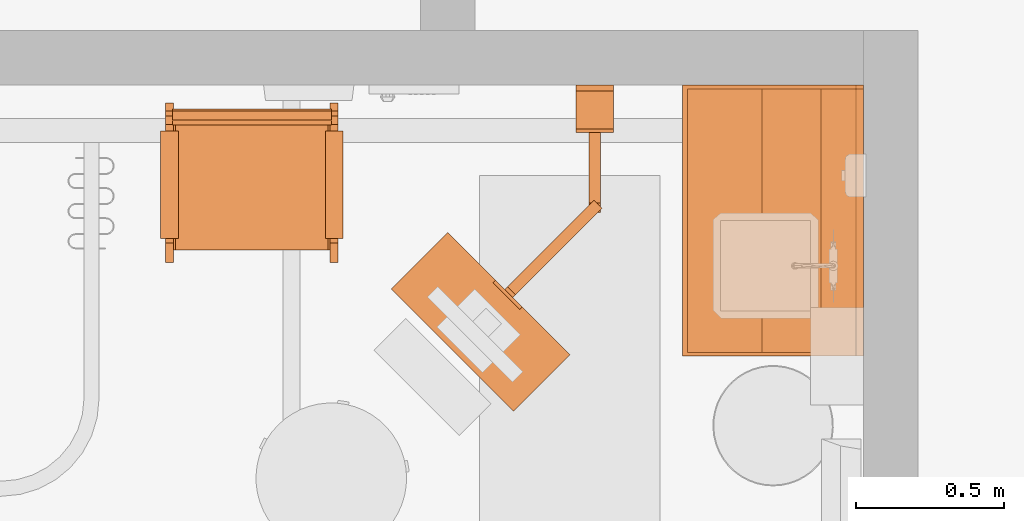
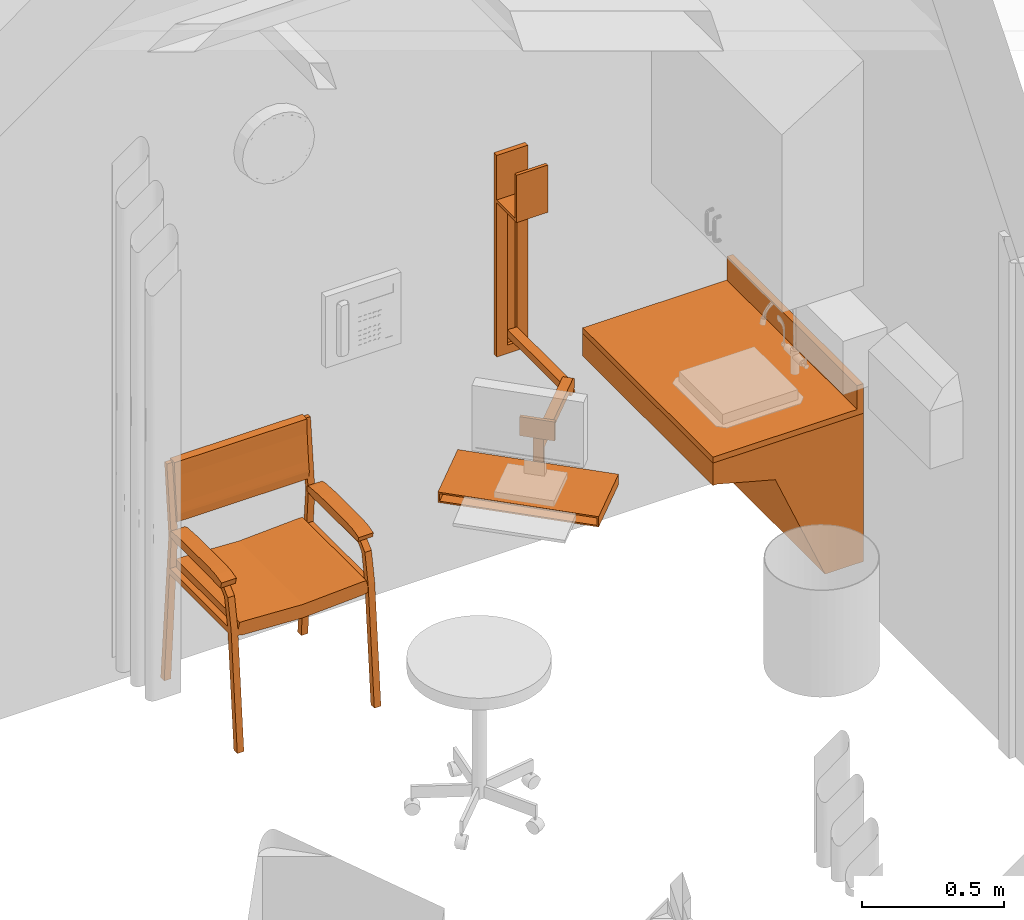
# One storey, part 29 of 142: 4 proxies.
"""IFC2X3 building model written with IfcOpenShell, lengths in feet."""

from ifc_helpers import new_model, entity, si_unit, converted_unit, derived_unit, direction, frame, frame_2d, origin, origin_2d_with_axis, place, context, subcontext, project, spatial, polyline, circle_curve, parameter, trimmed, segment, composite_curve, rectangle, circle, outline, extrude, source, transform, mapped, type_object, type_shapes, element, save


model = new_model("IFC2X3")

# Units and contexts
model_context = context("Model", 3, precision=0.0001, world=origin(), true_north=direction((6.12303176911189e-17, 1.0)))
body_context = subcontext(model_context, "Body", "Model", "MODEL_VIEW")
ifc_project = project(units=[converted_unit("LENGTHUNIT", "FOOT", entity("IfcRatioMeasure", 0.3048), si_unit("LENGTHUNIT", "METRE"), dimensions=[1, 0, 0, 0, 0, 0, 0]), converted_unit("AREAUNIT", "SQUARE FOOT", entity("IfcRatioMeasure", 0.09290304), si_unit("AREAUNIT", "SQUARE_METRE"), dimensions=[2, 0, 0, 0, 0, 0, 0]), converted_unit("VOLUMEUNIT", "CUBIC FOOT", entity("IfcRatioMeasure", 0.028316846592), si_unit("VOLUMEUNIT", "CUBIC_METRE"), dimensions=[3, 0, 0, 0, 0, 0, 0]), converted_unit("PLANEANGLEUNIT", "DEGREE", entity("IfcRatioMeasure", 0.0174532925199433), si_unit("PLANEANGLEUNIT", "RADIAN"), dimensions=[0, 0, 0, 0, 0, 0, 0]), si_unit("MASSUNIT", "GRAM", prefix="KILO"), derived_unit("MASSDENSITYUNIT", [(si_unit("MASSUNIT", "GRAM", prefix="KILO"), 1), (si_unit("LENGTHUNIT", "METRE"), -3)]), si_unit("TIMEUNIT", "SECOND"), si_unit("FREQUENCYUNIT", "HERTZ"), si_unit("THERMODYNAMICTEMPERATUREUNIT", "DEGREE_CELSIUS"), derived_unit("THERMALTRANSMITTANCEUNIT", [(si_unit("MASSUNIT", "GRAM", prefix="KILO"), 1), (si_unit("THERMODYNAMICTEMPERATUREUNIT", "KELVIN"), -1), (si_unit("TIMEUNIT", "SECOND"), -3)]), derived_unit("VOLUMETRICFLOWRATEUNIT", [(si_unit("LENGTHUNIT", "METRE"), 3), (si_unit("TIMEUNIT", "SECOND"), -1)]), si_unit("ELECTRICCURRENTUNIT", "AMPERE"), si_unit("ELECTRICVOLTAGEUNIT", "VOLT"), si_unit("POWERUNIT", "WATT"), si_unit("FORCEUNIT", "NEWTON"), si_unit("ILLUMINANCEUNIT", "LUX"), si_unit("LUMINOUSFLUXUNIT", "LUMEN"), si_unit("LUMINOUSINTENSITYUNIT", "CANDELA"), derived_unit("USERDEFINED", [(si_unit("MASSUNIT", "GRAM", prefix="KILO"), -1), (si_unit("LENGTHUNIT", "METRE"), -2), (si_unit("TIMEUNIT", "SECOND"), 3), (si_unit("LUMINOUSFLUXUNIT", "LUMEN"), 1)]), derived_unit("LINEARVELOCITYUNIT", [(si_unit("LENGTHUNIT", "METRE"), 1), (si_unit("TIMEUNIT", "SECOND"), -1)]), si_unit("PRESSUREUNIT", "PASCAL"), derived_unit("USERDEFINED", [(si_unit("LENGTHUNIT", "METRE"), -2), (si_unit("MASSUNIT", "GRAM", prefix="KILO"), 1), (si_unit("TIMEUNIT", "SECOND"), -2)])], contexts=[model_context])

# Site, building, storey, space
site_placement = place(None, origin())
site = spatial("IfcSite", under=ifc_project, at=site_placement, Name="Default", CompositionType="ELEMENT")
building_placement = place(site_placement, origin())
building = spatial("IfcBuilding", under=site, at=building_placement, Name="OUTPATIENT / PACT CLINIC (Ch. 265)", CompositionType="ELEMENT")
storey_placement = place(building_placement, origin())
storey = spatial("IfcBuildingStorey", under=building, at=storey_placement, Name="LEVEL 1", CompositionType="ELEMENT", Elevation=0.0)
space_placement = place(storey_placement, origin())
space = spatial("IfcSpace", under=storey, at=space_placement, Name="EXPA01", CompositionType="ELEMENT", InteriorOrExteriorSpace="INTERNAL")

# Proxies
building_element_proxy_type_1 = type_object("IfcBuildingElementProxyType", Name="M1803 - Workstation, Computer, Wall Mounted", PredefinedType="NOTDEFINED")
shared_shape_1 = source(origin(), body_context, "Body", "SweptSolid", [
    extrude(circle(Radius=0.104166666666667, at=frame_2d((1.0547118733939e-15, 3.336446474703e-16), x_axis=(1.0, 0.0))), frame((-0.0810226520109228, -1.34888430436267, 0.333333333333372), z_axis=(0.707106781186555, -0.70710678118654, 0.0), x_axis=(0.0, 0.0, 1.0)), (0.0, 0.0, 1.0), 0.125000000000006),
    extrude(outline(composite_curve([segment(polyline([(0.0520833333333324, -0.592708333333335), (0.0520833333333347, 0.644791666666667)]), True, "CONTINUOUS"), segment(polyline([(0.0520833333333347, 0.644791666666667), (-0.0520833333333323, 0.644791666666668)]), True, "CONTINUOUS"), segment(polyline([(-0.0520833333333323, 0.644791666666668), (-0.0520833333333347, -0.696875)]), True, "CONTINUOUS"), segment(trimmed(circle_curve(frame_2d((0.0520833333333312, -0.696875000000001), x_axis=(1.0, 0.0)), 0.104166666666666), [parameter(89.9999999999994)], [parameter(180.0)], True, "PARAMETER"), False, "CONTINUOUS")], self_intersect=False)), frame((-0.0624999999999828, -0.711458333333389, 0.281250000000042), z_axis=(-1.0, 0.0, 0.0), x_axis=(0.0, 0.0, 1.0)), (0.0, 0.0, -1.0), 0.125000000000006),
    extrude(outline(composite_curve([segment(polyline([(0.0520833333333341, -0.651041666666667), (0.0520833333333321, 0.598958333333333)]), True, "CONTINUOUS"), segment(polyline([(0.0520833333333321, 0.598958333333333), (-0.0520833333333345, 0.598958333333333)]), True, "CONTINUOUS"), segment(polyline([(-0.0520833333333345, 0.598958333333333), (-0.0520833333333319, -0.546875)]), True, "CONTINUOUS"), segment(trimmed(circle_curve(frame_2d((-0.0520833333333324, -0.651041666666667), x_axis=(1.0, 0.0)), 0.104166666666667), [parameter(1.01777749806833e-13)], [parameter(90.0000000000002)], True, "PARAMETER"), False, "CONTINUOUS")], self_intersect=False)), frame((-0.452990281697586, -1.89762862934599, 0.385416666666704), z_axis=(0.707106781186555, -0.70710678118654, 0.0), x_axis=(0.0, 0.0, 1.0)), (0.0, 0.0, -1.0), 0.125000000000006),
    extrude(outline(polyline([(-0.0729166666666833, -0.95833333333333), (0.0729166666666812, -0.95833333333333), (0.0729166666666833, 0.95833333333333), (-0.0729166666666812, 0.95833333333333), (-0.0729166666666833, -0.95833333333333)]), holes=[polyline([(-0.05208333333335, -0.937499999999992), (-0.052083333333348, 0.937499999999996), (0.0520833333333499, 0.937499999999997), (0.0520833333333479, -0.937499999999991), (-0.05208333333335, -0.937499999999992)])]), frame((-1.5747857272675, -2.93103572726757, 0.0729166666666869), z_axis=(0.707106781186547, 0.707106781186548, 0.0), x_axis=(0.0, 0.0, -1.0)), (0.0, 0.0, 1.0), 0.883333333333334),
    extrude(rectangle(XDim=0.0666666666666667, YDim=0.416666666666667, at=origin_2d_with_axis()), frame((0.0, -0.0333333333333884, 0.0), z_axis=(0.0, 0.0, 1.0), x_axis=(0.0, 1.0, 0.0)), (0.0, 0.0, 1.0), 0.11949518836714),
    extrude(outline(polyline([(-0.208333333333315, -0.0270833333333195), (-0.0625000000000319, -0.0270833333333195), (-0.0625000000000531, 0.014583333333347), (0.0625000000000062, 0.014583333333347), (0.0625000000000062, -0.0270833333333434), (0.208333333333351, -0.0270833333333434), (0.208333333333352, 0.0395833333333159), (-0.208333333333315, 0.0395833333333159), (-0.208333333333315, -0.0270833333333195)])), frame((0.0, -0.0395833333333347, 0.119495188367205)), (0.0, 0.0, 1.0), 2.0471714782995),
    extrude(outline(polyline([(-0.194444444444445, 0.125), (0.430555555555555, 0.125), (0.430555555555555, 0.166666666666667), (-0.236111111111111, 0.166666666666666), (-0.236111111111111, -0.291666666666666), (-0.194444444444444, -0.291666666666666), (-0.194444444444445, 0.125)])), frame((-0.208333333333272, -0.358333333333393, 2.40277777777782), z_axis=(1.0, 0.0, 0.0), x_axis=(0.0, 0.0, 1.0)), (0.0, 0.0, 1.0), 0.416666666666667),
    extrude(rectangle(XDim=0.0416666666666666, YDim=0.416666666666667, at=frame_2d((4.16333634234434e-17, -5.55111512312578e-17), x_axis=(1.0, 0.0))), frame((-0.964906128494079, -2.3211561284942, 0.503601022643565), z_axis=(0.0, 0.0, 1.0), x_axis=(0.707106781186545, 0.70710678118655, 0.0)), (0.0, 0.0, 1.0), 0.267232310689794),
    extrude(rectangle(XDim=0.125000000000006, YDim=0.0416666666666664, at=frame_2d((-1.94289029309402e-16, 1.16226472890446e-16), x_axis=(1.0, 0.0))), frame((-0.935443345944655, -2.29169334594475, 0.0), z_axis=(0.0, 0.0, 1.0), x_axis=(-0.707106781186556, 0.70710678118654, 0.0)), (0.0, 0.0, 1.0), 0.666666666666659),
    extrude(rectangle(XDim=0.0666666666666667, YDim=0.416666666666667, at=origin_2d_with_axis()), frame((0.0, -0.0333333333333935, 2.16666666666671), z_axis=(0.0, 0.0, 1.0), x_axis=(0.0, 1.0, 0.0)), (0.0, 0.0, 1.0), 0.666666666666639),
])
type_shapes(building_element_proxy_type_1, [shared_shape_1])
proxy_1_placement = place(space_placement, frame((400.489351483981, -910.837185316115, 2.83333333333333)))
element("IfcBuildingElementProxy", 1, at=proxy_1_placement, inside=space, type_object=building_element_proxy_type_1, Name="M1803 - Workstation, Computer, Wall Mounted1:M1803 - Workstation, Computer, Wall Mounted", ObjectType="M1803 - Workstation, Computer, Wall Mounted", context=body_context, shape_type="MappedRepresentation", body=[
    mapped(shared_shape_1, transform((0.0, 0.0, 0.0), scale=1.0)),
])
building_element_proxy_type_2 = type_object("IfcBuildingElementProxyType", Name="F0205 - Chair, Side With Arms", PredefinedType="NOTDEFINED")
shared_shape_2 = source(origin(), body_context, "Body", "SweptSolid", [
    extrude(outline(polyline([(-0.104007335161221, -0.374369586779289), (-0.027711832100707, -0.374369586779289), (-0.0197350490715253, -0.338348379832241), (0.00592434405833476, -0.182113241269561), (0.0162560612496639, -0.135457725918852), (0.0457826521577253, -0.00212284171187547), (0.0856087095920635, 0.177721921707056), (0.112798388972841, 0.276572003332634), (0.120257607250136, 0.307674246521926), (0.129202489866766, 0.415216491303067), (0.045581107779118, 0.433734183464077), (0.0167028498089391, 0.395704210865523), (-0.0364083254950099, 0.222671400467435), (-0.125070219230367, -0.177704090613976), (-0.13682888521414, -0.27538652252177), (-0.128352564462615, -0.36942248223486), (-0.104007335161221, -0.374369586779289)])), frame((-0.891159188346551, -0.878769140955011, 2.73061112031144), z_axis=(0.0, 1.0, 0.0), x_axis=(0.991475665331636, 0.0, -0.130291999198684)), (0.0, 0.0, 1.0), 1.75919993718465),
    extrude(outline(polyline([(0.0907668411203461, -0.842703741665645), (0.261538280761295, -0.842703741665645), (0.265730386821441, -0.773999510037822), (0.127479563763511, 0.0287496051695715), (-0.0923338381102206, 0.813085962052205), (-0.125373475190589, 0.873420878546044), (-0.279635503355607, 0.800086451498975), (-0.270660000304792, 0.752608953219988), (-0.0560029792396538, -0.0126173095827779), (0.0784907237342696, -0.795927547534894), (0.0907668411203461, -0.842703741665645)])), frame((-0.90556950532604, 0.000822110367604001, 1.62079321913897), z_axis=(1.0, 0.0, 0.0), x_axis=(0.0, -0.219936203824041, -0.975514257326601)), (0.0, 0.0, 1.0), 1.47211210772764),
    extrude(outline(polyline([(-0.552031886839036, -0.234422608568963), (-0.484734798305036, -0.234422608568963), (-0.233837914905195, -0.160903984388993), (0.324339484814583, 0.0422559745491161), (0.453697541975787, 0.101150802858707), (0.564536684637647, 0.176717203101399), (0.51204038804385, 0.250193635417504), (0.420212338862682, 0.216770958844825), (0.254858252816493, 0.145732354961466), (-0.246233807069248, -0.0366502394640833), (-0.436544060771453, -0.0986810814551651), (-0.576302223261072, -0.167740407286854), (-0.552031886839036, -0.234422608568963)])), frame((-0.1510824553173, -1.00916916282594, 2.22827697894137), z_axis=(0.0, 1.0, 0.0), x_axis=(0.939692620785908, 0.0, 0.34202014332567)), (0.0, 0.0, 1.0), 0.198199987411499),
    extrude(outline(polyline([(-0.525375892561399, -0.221085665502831), (-0.458078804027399, -0.221085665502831), (-0.207181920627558, -0.147567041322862), (0.350995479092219, 0.0555929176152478), (0.480353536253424, 0.114487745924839), (0.591192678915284, 0.190054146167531), (0.551062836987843, 0.246221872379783), (0.114629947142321, 0.0873732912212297), (0.281514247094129, 0.159069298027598), (-0.219577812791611, -0.0233132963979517), (-0.409888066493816, -0.0853441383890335), (-0.549646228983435, -0.154403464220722), (-0.525375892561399, -0.221085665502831)])), frame((-0.180692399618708, 0.814330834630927, 2.23169271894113), z_axis=(0.0, 1.0, 0.0), x_axis=(0.939692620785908, 0.0, 0.34202014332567)), (0.0, 0.0, 1.0), 0.196499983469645),
    extrude(outline(polyline([(0.0166377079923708, -0.666422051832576), (0.099971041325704, -0.666422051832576), (-0.0172324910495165, 0.673220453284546), (-0.0993762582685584, 0.659623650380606), (0.0166377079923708, -0.666422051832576)])), frame((-0.182442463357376, -0.954369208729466, 1.61480726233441), z_axis=(0.0, 1.0, 0.0), x_axis=(0.0871557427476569, 0.0, -0.996194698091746)), (0.0, 0.0, 1.0), 0.0833333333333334),
    extrude(outline(polyline([(0.0166377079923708, -0.666422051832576), (0.099971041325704, -0.666422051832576), (-0.0172324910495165, 0.673220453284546), (-0.0993762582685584, 0.659623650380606), (0.0166377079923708, -0.666422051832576)])), frame((-0.182442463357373, 0.867430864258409, 1.61480726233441), z_axis=(0.0, 1.0, 0.0), x_axis=(0.0871557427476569, 0.0, -0.996194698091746)), (0.0, 0.0, 1.0), 0.0833333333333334),
    extrude(outline(polyline([(0.811855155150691, -1.61770011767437), (0.895188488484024, -1.61770011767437), (0.71143329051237, 0.489199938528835), (0.806416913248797, 1.46713632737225), (0.751033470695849, 1.46713632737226), (0.656855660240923, 0.571094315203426), (-0.516612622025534, 0.571094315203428), (-0.653571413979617, 0.441277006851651), (-0.728375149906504, 0.0391907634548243), (-0.871611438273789, -1.61770011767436), (-0.791571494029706, -1.61770011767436), (-0.646611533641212, 0.0391998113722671), (-0.578172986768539, 0.407071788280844), (-0.496044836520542, 0.48919993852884), (0.649788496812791, 0.489199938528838), (0.811855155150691, -1.61770011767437)])), frame((-0.163768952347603, -0.954369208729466, 1.61770011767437), z_axis=(0.0, 1.0, 0.0), x_axis=(-1.0, 0.0, 0.0)), (0.0, 0.0, 1.0), 0.0885709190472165),
    extrude(outline(polyline([(0.811855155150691, -1.61770011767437), (0.895188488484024, -1.61770011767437), (0.71143329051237, 0.489199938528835), (0.806416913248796, 1.46713632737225), (0.751033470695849, 1.46713632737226), (0.656855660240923, 0.571094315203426), (-0.516612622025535, 0.571094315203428), (-0.653571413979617, 0.441277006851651), (-0.728375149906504, 0.0391907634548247), (-0.871611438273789, -1.61770011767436), (-0.791571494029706, -1.61770011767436), (-0.646611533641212, 0.0391998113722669), (-0.578172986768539, 0.407071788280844), (-0.496044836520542, 0.48919993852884), (0.649788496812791, 0.489199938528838), (0.811855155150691, -1.61770011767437)])), frame((-0.1637689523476, 0.867430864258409, 1.61770011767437), z_axis=(0.0, 1.0, 0.0), x_axis=(-1.0, 0.0, 0.0)), (0.0, 0.0, 1.0), 0.0885709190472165),
])
type_shapes(building_element_proxy_type_2, [shared_shape_2])
proxy_2_placement = place(space_placement, frame((396.692476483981, -912.092393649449, 0.0), z_axis=(0.0, 0.0, 1.0), x_axis=(0.0, -1.0, 0.0)))
element("IfcBuildingElementProxy", 2, at=proxy_2_placement, inside=space, type_object=building_element_proxy_type_2, Name="F0205 - Chair, Side With Arms:F0205 - Chair, Side With Arms", ObjectType="F0205 - Chair, Side With Arms", context=body_context, shape_type="MappedRepresentation", body=[
    mapped(shared_shape_2, transform((0.0, 0.0, 0.0), scale=1.0)),
])
building_element_proxy_type_3 = type_object("IfcBuildingElementProxyType", Name="CT020 - Countertop, Solid Surface - No Opening (1)", PredefinedType="NOTDEFINED")
shared_shape_3 = source(origin(), body_context, "Body", "SweptSolid", [
    extrude(rectangle(XDim=3.0, YDim=0.083333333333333, at=frame_2d((0.0, -5.55111512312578e-17), x_axis=(1.0, 0.0))), frame((0.0, 0.958333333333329, 0.0833333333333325)), (0.0, 0.0, 1.0), 0.333333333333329),
    extrude(rectangle(XDim=3.0, YDim=2.0, at=origin_2d_with_axis()), origin(), (0.0, 0.0, 1.0), 0.0833333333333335),
])
type_shapes(building_element_proxy_type_3, [shared_shape_3])
proxy_3_placement = place(space_placement, frame((402.463309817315, -912.337185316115, 2.70833333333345), z_axis=(0.0, 0.0, 1.0), x_axis=(0.0, -1.0, 0.0)))
element("IfcBuildingElementProxy", 3, at=proxy_3_placement, inside=space, type_object=building_element_proxy_type_3, Name="CT020 - Countertop, Solid Surface - No Opening (1):CT020 - Countertop, Solid Surface - No Opening (1)", ObjectType="CT020 - Countertop, Solid Surface - No Opening (1)", context=body_context, shape_type="MappedRepresentation", body=[
    mapped(shared_shape_3, transform((0.0, 0.0, 0.0), scale=1.0)),
])
building_element_proxy_type_4 = type_object("IfcBuildingElementProxyType", Name="24\"H x 24\"D x 36\"W", PredefinedType="NOTDEFINED")
shared_shape_4 = source(origin(), body_context, "Body", "SweptSolid", [
    extrude(outline(polyline([(-0.750382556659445, 0.0187614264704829), (0.944711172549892, 0.0187614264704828), (1.14381332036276, 0.488200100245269), (1.08627459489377, 0.51260389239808), (0.903330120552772, 0.081261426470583), (-0.774516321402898, 0.0812614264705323), (-1.30874051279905, -0.586799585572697), (-1.24448981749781, -0.614050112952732), (-0.750382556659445, 0.0187614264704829)])), frame((-1.45833333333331, -1.19293570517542, 1.67489402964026), z_axis=(1.0, 0.0, 0.0), x_axis=(0.0, 0.390460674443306, -0.920619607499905)), (0.0, 0.0, 1.0), 2.91666666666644),
    extrude(outline(polyline([(-1.24925608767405, -0.929380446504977), (0.834077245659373, -0.929380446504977), (0.834077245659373, 1.01791116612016), (0.519077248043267, 1.01791116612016), (0.311280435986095, 0.242403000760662), (-1.24925608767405, -0.41946443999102), (-1.24925608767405, -0.929380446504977)])), frame((-1.49999999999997, -1.2262554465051, 2.06175608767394), z_axis=(1.0, 0.0, 0.0), x_axis=(0.0, 0.0, 1.0)), (0.0, 0.0, 1.0), 0.0416666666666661),
    extrude(rectangle(XDim=3.0, YDim=0.0527083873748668, at=frame_2d((0.0, -2.22044604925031e-16), x_axis=(1.0, 0.0))), frame((0.0, -2.27052080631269, 2.58083333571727), z_axis=(0.0, 0.0, 1.0), x_axis=(-1.0, 0.0, 0.0)), (0.0, 0.0, 1.0), 0.314999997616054),
    extrude(outline(polyline([(-1.24925608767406, -0.929380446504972), (0.834077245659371, -0.929380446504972), (0.834077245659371, 1.01791116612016), (0.519077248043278, 1.01791116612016), (0.311280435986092, 0.24240300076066), (-1.24925608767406, -0.419464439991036), (-1.24925608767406, -0.929380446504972)])), frame((1.45833333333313, -1.22625544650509, 2.06175608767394), z_axis=(1.0, 0.0, 0.0), x_axis=(0.0, 0.0, 1.0)), (0.0, 0.0, 1.0), 0.0416666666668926),
])
type_shapes(building_element_proxy_type_4, [shared_shape_4])
proxy_4_placement = place(space_placement, frame((403.760184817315, -912.337185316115, -0.187499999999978), z_axis=(0.0, 0.0, 1.0), x_axis=(0.0, -1.0, 0.0)))
element("IfcBuildingElementProxy", 4, at=proxy_4_placement, inside=space, type_object=building_element_proxy_type_4, Name="Z1018 - Cabinet, ADA Sink Support:24\"H x 24\"D x 36\"W", ObjectType="24\"H x 24\"D x 36\"W", context=body_context, shape_type="MappedRepresentation", body=[
    mapped(shared_shape_4, transform((0.0, 0.0, 0.0), scale=1.0)),
])

save(model, "model.ifc")
